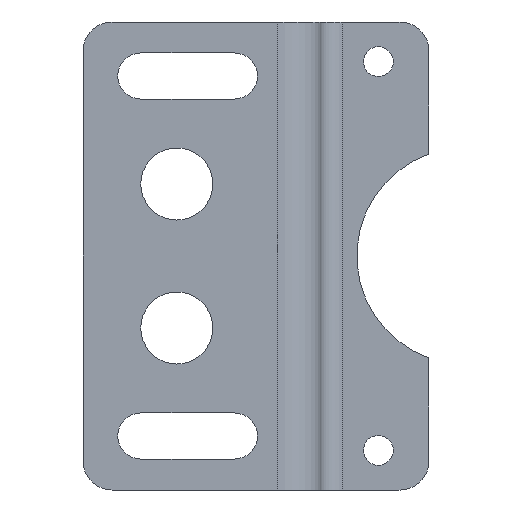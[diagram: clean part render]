
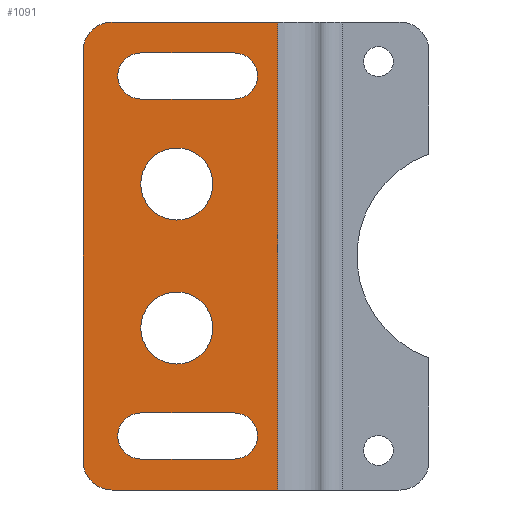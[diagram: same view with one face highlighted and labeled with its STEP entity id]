
A CAD part, left-side view. The second image highlights one B-rep face of the part: STEP entity #1091.
In plain terms, the highlighted planar face has unit normal (-1, 0, 0).
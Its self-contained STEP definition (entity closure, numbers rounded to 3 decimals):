
#73=CARTESIAN_POINT('',(-20.,40.,60.7));
#74=VERTEX_POINT('',#73);
#75=CARTESIAN_POINT('',(-20.,27.,60.7));
#76=VERTEX_POINT('',#75);
#77=CARTESIAN_POINT('',(-20.,40.,60.7));
#78=DIRECTION('',(0.0,-1.0,0.0));
#79=VECTOR('',#78,13.0);
#80=LINE('',#77,#79);
#81=EDGE_CURVE('',#74,#76,#80,.T.);
#113=CARTESIAN_POINT('',(-20.,27.,54.3));
#114=VERTEX_POINT('',#113);
#115=CARTESIAN_POINT('',(-20.,27.,57.5));
#116=DIRECTION('',(1.0,0.0,0.0));
#117=DIRECTION('',(0.0,0.0,-1.0));
#118=AXIS2_PLACEMENT_3D('',#115,#116,#117);
#119=CIRCLE('',#118,3.2);
#120=EDGE_CURVE('',#76,#114,#119,.T.);
#146=CARTESIAN_POINT('',(-20.,40.,54.3));
#147=VERTEX_POINT('',#146);
#148=CARTESIAN_POINT('',(-20.,27.,54.3));
#149=DIRECTION('',(0.0,1.0,0.0));
#150=VECTOR('',#149,13.0);
#151=LINE('',#148,#150);
#152=EDGE_CURVE('',#114,#147,#151,.T.);
#177=CARTESIAN_POINT('',(-20.,40.,57.5));
#178=DIRECTION('',(1.0,0.0,0.0));
#179=DIRECTION('',(0.0,0.0,1.0));
#180=AXIS2_PLACEMENT_3D('',#177,#178,#179);
#181=CIRCLE('',#180,3.2);
#182=EDGE_CURVE('',#147,#74,#181,.T.);
#201=CARTESIAN_POINT('',(-20.,35.,47.5));
#202=VERTEX_POINT('',#201);
#203=CARTESIAN_POINT('',(-20.,35.,42.5));
#204=DIRECTION('',(1.0,0.0,0.0));
#205=DIRECTION('',(0.0,0.0,-1.0));
#206=AXIS2_PLACEMENT_3D('',#203,#204,#205);
#207=CIRCLE('',#206,5.0);
#208=EDGE_CURVE('',#202,#202,#207,.T.);
#402=CARTESIAN_POINT('',(-20.,44.0,65.0));
#403=VERTEX_POINT('',#402);
#404=CARTESIAN_POINT('',(-20.,48.,61.0));
#405=VERTEX_POINT('',#404);
#406=CARTESIAN_POINT('',(-20.,44.0,61.0));
#407=DIRECTION('',(-1.0,0.,0.));
#408=DIRECTION('',(0.,0.707,0.707));
#409=AXIS2_PLACEMENT_3D('',#406,#407,#408);
#410=CIRCLE('',#409,4.0);
#411=EDGE_CURVE('',#403,#405,#410,.T.);
#486=CARTESIAN_POINT('',(-20.,21.,65.0));
#487=VERTEX_POINT('',#486);
#488=CARTESIAN_POINT('',(-20.,44.0,65.0));
#489=DIRECTION('',(0.0,-1.0,0.0));
#490=VECTOR('',#489,23.);
#491=LINE('',#488,#490);
#492=EDGE_CURVE('',#403,#487,#491,.T.);
#621=CARTESIAN_POINT('',(-20.,35.,17.5));
#622=VERTEX_POINT('',#621);
#623=CARTESIAN_POINT('',(-20.,35.,22.5));
#624=DIRECTION('',(1.0,0.0,0.0));
#625=DIRECTION('',(0.0,0.0,1.0));
#626=AXIS2_PLACEMENT_3D('',#623,#624,#625);
#627=CIRCLE('',#626,5.0);
#628=EDGE_CURVE('',#622,#622,#627,.T.);
#649=CARTESIAN_POINT('',(-20.,27.,4.3));
#650=VERTEX_POINT('',#649);
#651=CARTESIAN_POINT('',(-20.,40.,4.3));
#652=VERTEX_POINT('',#651);
#653=CARTESIAN_POINT('',(-20.,27.,4.3));
#654=DIRECTION('',(0.0,1.0,0.0));
#655=VECTOR('',#654,13.0);
#656=LINE('',#653,#655);
#657=EDGE_CURVE('',#650,#652,#656,.T.);
#689=CARTESIAN_POINT('',(-20.,27.,10.7));
#690=VERTEX_POINT('',#689);
#691=CARTESIAN_POINT('',(-20.,27.,7.5));
#692=DIRECTION('',(1.0,0.0,0.0));
#693=DIRECTION('',(0.0,0.0,1.0));
#694=AXIS2_PLACEMENT_3D('',#691,#692,#693);
#695=CIRCLE('',#694,3.2);
#696=EDGE_CURVE('',#690,#650,#695,.T.);
#722=CARTESIAN_POINT('',(-20.,40.,10.7));
#723=VERTEX_POINT('',#722);
#724=CARTESIAN_POINT('',(-20.,40.,10.7));
#725=DIRECTION('',(0.0,-1.0,0.0));
#726=VECTOR('',#725,13.0);
#727=LINE('',#724,#726);
#728=EDGE_CURVE('',#723,#690,#727,.T.);
#753=CARTESIAN_POINT('',(-20.,40.,7.5));
#754=DIRECTION('',(1.0,0.0,0.0));
#755=DIRECTION('',(0.0,0.0,-1.0));
#756=AXIS2_PLACEMENT_3D('',#753,#754,#755);
#757=CIRCLE('',#756,3.2);
#758=EDGE_CURVE('',#652,#723,#757,.T.);
#811=CARTESIAN_POINT('',(-20.,44.0,0.0));
#812=VERTEX_POINT('',#811);
#813=CARTESIAN_POINT('',(-20.,48.,4.0));
#814=VERTEX_POINT('',#813);
#815=CARTESIAN_POINT('',(-20.,44.0,4.0));
#816=DIRECTION('',(1.0,0.,0.));
#817=DIRECTION('',(0.,0.707,-0.707));
#818=AXIS2_PLACEMENT_3D('',#815,#816,#817);
#819=CIRCLE('',#818,4.0);
#820=EDGE_CURVE('',#812,#814,#819,.T.);
#903=CARTESIAN_POINT('',(-20.,48.,4.0));
#904=DIRECTION('',(0.0,0.0,1.0));
#905=VECTOR('',#904,57.0);
#906=LINE('',#903,#905);
#907=EDGE_CURVE('',#814,#405,#906,.T.);
#1035=CARTESIAN_POINT('',(-20.,21.,0.0));
#1036=VERTEX_POINT('',#1035);
#1037=CARTESIAN_POINT('',(-20.,21.,0.0));
#1038=DIRECTION('',(0.0,0.0,1.0));
#1039=VECTOR('',#1038,65.0);
#1040=LINE('',#1037,#1039);
#1041=EDGE_CURVE('',#1036,#487,#1040,.T.);
#1055=CARTESIAN_POINT('',(-20.,21.,0.0));
#1056=DIRECTION('',(-1.0,0.0,0.0));
#1057=DIRECTION('',(0.0,0.0,1.0));
#1058=AXIS2_PLACEMENT_3D('',#1055,#1056,#1057);
#1059=PLANE('',#1058);
#1060=ORIENTED_EDGE('',*,*,#820,.F.);
#1061=CARTESIAN_POINT('',(-20.,44.0,0.0));
#1062=DIRECTION('',(0.0,-1.0,0.0));
#1063=VECTOR('',#1062,23.);
#1064=LINE('',#1061,#1063);
#1065=EDGE_CURVE('',#812,#1036,#1064,.T.);
#1066=ORIENTED_EDGE('',*,*,#1065,.T.);
#1067=ORIENTED_EDGE('',*,*,#1041,.T.);
#1068=ORIENTED_EDGE('',*,*,#492,.F.);
#1069=ORIENTED_EDGE('',*,*,#411,.T.);
#1070=ORIENTED_EDGE('',*,*,#907,.F.);
#1071=EDGE_LOOP('',(#1060,#1066,#1067,#1068,#1069,#1070));
#1072=FACE_OUTER_BOUND('',#1071,.T.);
#1073=ORIENTED_EDGE('',*,*,#81,.T.);
#1074=ORIENTED_EDGE('',*,*,#120,.T.);
#1075=ORIENTED_EDGE('',*,*,#152,.T.);
#1076=ORIENTED_EDGE('',*,*,#182,.T.);
#1077=EDGE_LOOP('',(#1073,#1074,#1075,#1076));
#1078=FACE_BOUND('',#1077,.T.);
#1079=ORIENTED_EDGE('',*,*,#208,.T.);
#1080=EDGE_LOOP('',(#1079));
#1081=FACE_BOUND('',#1080,.T.);
#1082=ORIENTED_EDGE('',*,*,#628,.T.);
#1083=EDGE_LOOP('',(#1082));
#1084=FACE_BOUND('',#1083,.T.);
#1085=ORIENTED_EDGE('',*,*,#657,.T.);
#1086=ORIENTED_EDGE('',*,*,#758,.T.);
#1087=ORIENTED_EDGE('',*,*,#728,.T.);
#1088=ORIENTED_EDGE('',*,*,#696,.T.);
#1089=EDGE_LOOP('',(#1085,#1086,#1087,#1088));
#1090=FACE_BOUND('',#1089,.T.);
#1091=ADVANCED_FACE('',(#1072,#1078,#1081,#1084,#1090),#1059,.T.);
